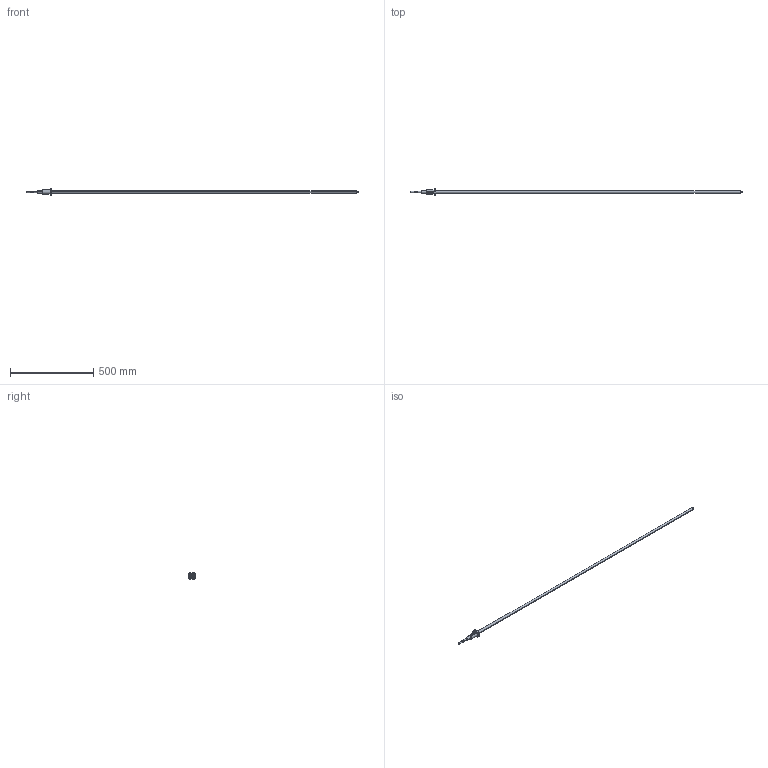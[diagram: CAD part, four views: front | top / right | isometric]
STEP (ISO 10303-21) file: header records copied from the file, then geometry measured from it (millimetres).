
FILE_DESCRIPTION (( 'STEP AP214' ), '1' );
FILE_NAME ('7.3007 STNUR1610-DCF7-2000mm.STEP', '2026-03-10T08:44:31', ( '' ), ( '' ), 'SwSTEP 2.0', 'SolidWorks 2025', '' );
FILE_SCHEMA (( 'AUTOMOTIVE_DESIGN' ));
Length unit declared in the file: millimetre
Products named in the file (3): 7.3104 STNUR1610T3D; 7.3007 STNUR1610-DCF7-2000mm; 7.3032 TCR1610 FC7
Assembly tree (2 placements, depth 2):
  7.3007 STNUR1610-DCF7-2000mm
    7.3032 TCR1610 FC7
    7.3104 STNUR1610T3D
Bounding box: 2000 x 48 x 40 mm (x, y, z)
Volume: 416446 mm3; surface area: 111397.4 mm2
Topology: 2 solids, 2 shells, 633 faces, 1781 edges, 1184 vertices
Faces by surface type: bspline 428, cylinder 101, plane 95, cone 9
Entity records: 34019 total; most frequent: CARTESIAN_POINT 20681, ORIENTED_EDGE 3562, EDGE_CURVE 1781, DIRECTION 1337, VERTEX_POINT 1184, B_SPLINE_CURVE_WITH_KNOTS 881, VECTOR 739, LINE 739
